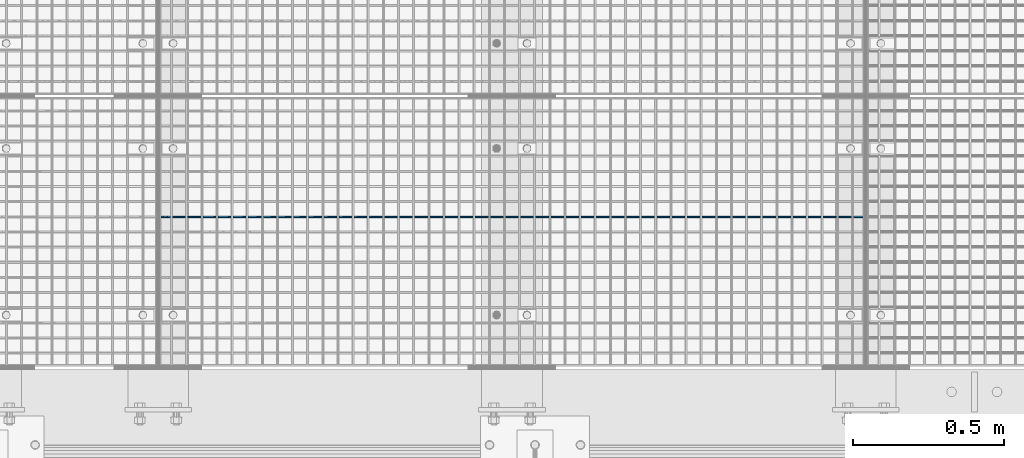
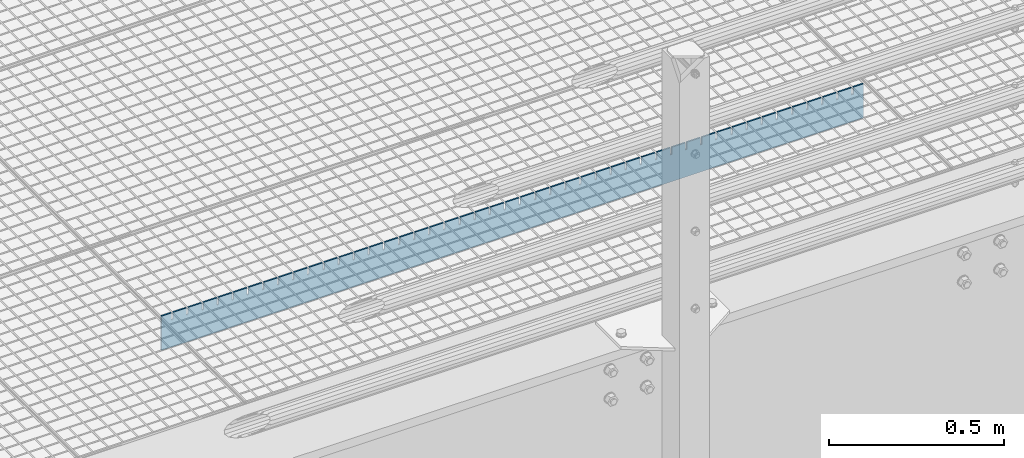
# One storey, part 161 of 1530: 1 beam.
"""IFC2X3 building model written with IfcOpenShell, lengths in millimetres."""

from ifc_helpers import new_model, si_unit, frame, origin_with_axes, place, context, subcontext, project, spatial, faceted_brep, material, type_object, element, save


model = new_model("IFC2X3")

# Units and contexts
model_context = context("Model", 3, precision=1e-05, world=origin_with_axes())
body_context = subcontext(model_context, "Body", "Model", "MODEL_VIEW")
ifc_project = project(units=[si_unit("LENGTHUNIT", "METRE", prefix="MILLI"), si_unit("AREAUNIT", "SQUARE_METRE"), si_unit("VOLUMEUNIT", "CUBIC_METRE"), si_unit("MASSUNIT", "GRAM", prefix="KILO"), si_unit("TIMEUNIT", "SECOND"), si_unit("PLANEANGLEUNIT", "RADIAN"), si_unit("SOLIDANGLEUNIT", "STERADIAN"), si_unit("THERMODYNAMICTEMPERATUREUNIT", "DEGREE_CELSIUS"), si_unit("LUMINOUSINTENSITYUNIT", "LUMEN")], contexts=[model_context])

# Site, building, storey
site_placement = place(None, origin_with_axes())
site = spatial("IfcSite", under=ifc_project, at=site_placement, Name="Brattvåg", CompositionType="ELEMENT")
building_placement = place(site_placement, origin_with_axes())
building = spatial("IfcBuilding", under=site, at=building_placement, Name="Undefined", CompositionType="ELEMENT")
storey_placement = place(building_placement, origin_with_axes())
storey = spatial("IfcBuildingStorey", under=building, at=storey_placement, Name="Undefined", CompositionType="ELEMENT", Elevation=0.0)

# Beam
ifc_material = material(Name="STEEL/S355J2")
beam_type = type_object("IfcBeamType", Name="120*5", PredefinedType="NOTDEFINED")
beam_placement = place(storey_placement, frame((5234.01317977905, 652.995635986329, -59.9998626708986), z_axis=(0.0, 0.0, 1.0), x_axis=(-1.0, 1.99999855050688e-09, 0.0)))
element("IfcBeam", 1, at=beam_placement, inside=storey, type_object=beam_type, material=ifc_material, Name="GRATING", context=body_context, shape_type="Brep", body=[
    faceted_brep([(2231.43418685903, -2.50000000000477, 60.000072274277), (2231.43418685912, -2.50000000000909, 35.0001373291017), (2231.43418685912, 2.50022888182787, 35.0001373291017), (2231.43418685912, 2.5, 60.0), (2236.43418685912, -2.50000000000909, 35.0001373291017), (2236.43418685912, 2.50022888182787, 35.0001373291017), (2236.43418685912, -2.50000000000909, 60.0001373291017), (2236.43418685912, 2.5, 60.0), (2186.48418685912, -2.50000000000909, 60.0001373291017), (2186.48418685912, 2.5, 60.0), (2186.48418685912, 2.50022888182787, 35.0001373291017), (2186.48418685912, -2.50000000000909, 35.0001373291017), (2181.48418685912, 2.50022888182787, 35.0001373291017), (2181.48418685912, -2.50000000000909, 35.0001373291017), (2181.48418685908, -2.50000000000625, 60.0000947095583), (2181.48418685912, 2.5, 60.0), (2136.53418685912, 2.5, 60.0), (2136.53418685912, -2.50000000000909, 60.0001373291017), (2136.53418685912, 2.50022888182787, 35.0001373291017), (2136.53418685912, -2.50000000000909, 35.0001373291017), (2131.53418685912, 2.50022888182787, 35.0001373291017), (2131.53418685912, -2.50000000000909, 35.0001373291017), (2131.5341868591, -2.50000000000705, 60.0001056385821), (2131.53418685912, 2.5, 60.0), (2086.58418685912, 2.5, 60.0), (2086.58418685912, -2.50000000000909, 60.0001373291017), (2086.58418685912, 2.50022888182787, 35.0001373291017), (2086.58418685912, -2.50000000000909, 35.0001373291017), (2081.58418685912, 2.50022888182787, 35.0001373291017), (2081.58418685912, -2.50000000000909, 35.0001373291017), (2081.58418685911, -2.50000000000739, 60.0001121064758), (2081.58418685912, 2.5, 60.0), (2036.63418685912, 2.5, 60.0), (2036.63418685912, -2.50000000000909, 60.0001373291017), (2036.63418685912, 2.50022888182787, 35.0001373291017), (2036.63418685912, -2.50000000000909, 35.0001373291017), (2031.63418685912, 2.50022888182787, 35.0001373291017), (2031.63418685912, -2.50000000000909, 35.0001373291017), (2031.63418685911, -2.50000000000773, 60.0001163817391), (2031.63418685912, 2.5, 60.0), (1986.68418685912, 2.5, 60.0), (1986.68418685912, -2.50000000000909, 60.0001373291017), (1986.68418685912, 2.50022888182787, 35.0001373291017), (1986.68418685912, -2.50000000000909, 35.0001373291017), (1981.68418685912, 2.50022888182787, 35.0001373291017), (1981.68418685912, -2.50000000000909, 35.0001373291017), (1981.68418685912, -2.50000000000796, 60.0001194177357), (1981.68418685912, 2.5, 60.0), (1936.73418685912, 2.5, 60.0), (1936.73418685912, -2.50000000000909, 60.0001373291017), (1936.73418685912, 2.50022888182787, 35.0001373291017), (1936.73418685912, -2.50000000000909, 35.0001373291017), (1931.73418685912, 2.50022888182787, 35.0001373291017), (1931.73418685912, -2.50000000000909, 35.0001373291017), (1931.73418685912, -2.50000000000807, 60.000121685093), (1931.73418685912, 2.5, 60.0), (1886.78418685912, 2.5, 60.0), (1886.78418685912, -2.50000000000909, 60.0001373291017), (1886.78418685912, 2.50022888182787, 35.0001373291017), (1886.78418685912, -2.50000000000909, 35.0001373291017), (1881.78418685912, 2.50022888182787, 35.0001373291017), (1881.78418685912, -2.50000000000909, 35.0001373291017), (1881.78418685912, -2.50000000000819, 60.0001234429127), (1881.78418685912, 2.5, 60.0), (1836.83418685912, 2.5, 60.0), (1836.83418685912, -2.50000000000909, 60.0001373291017), (1836.83418685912, 2.50022888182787, 35.0001373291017), (1836.83418685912, -2.50000000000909, 35.0001373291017), (1831.83418685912, 2.50022888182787, 35.0001373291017), (1831.83418685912, -2.50000000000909, 35.0001373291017), (1831.83418685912, -2.5000000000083, 60.0001248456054), (1831.83418685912, 2.5, 60.0), (1786.88418685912, 2.5, 60.0), (1786.88418685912, -2.50000000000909, 60.0001373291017), (1786.88418685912, 2.50022888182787, 35.0001373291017), (1786.88418685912, -2.50000000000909, 35.0001373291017), (1781.88418685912, 2.50022888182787, 35.0001373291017), (1781.88418685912, -2.50000000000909, 35.0001373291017), (1781.88418685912, -2.5000000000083, 60.0001259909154), (1781.88418685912, 2.5, 60.0), (1736.93418685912, 2.5, 60.0), (1736.93418685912, -2.50000000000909, 60.0001373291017), (1736.93418685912, 2.50022888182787, 35.0001373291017), (1736.93418685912, -2.50000000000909, 35.0001373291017), (1731.93418685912, 2.50022888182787, 35.0001373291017), (1731.93418685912, -2.50000000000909, 35.0001373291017), (1731.93418685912, -2.50000000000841, 60.0001269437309), (1731.93418685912, 2.5, 60.0), (1686.98418685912, 2.5, 60.0), (1686.98418685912, -2.50000000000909, 60.0001373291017), (1686.98418685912, 2.50022888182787, 35.0001373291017), (1686.98418685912, -2.50000000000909, 35.0001373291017), (1681.98418685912, 2.50022888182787, 35.0001373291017), (1681.98418685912, -2.50000000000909, 35.0001373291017), (1681.98418685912, -2.50000000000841, 60.0001277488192), (1681.98418685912, 2.5, 60.0), (1637.03418685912, 2.5, 60.0), (1637.03418685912, -2.50000000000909, 60.0001373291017), (1637.03418685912, 2.50022888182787, 35.0001373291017), (1637.03418685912, -2.50000000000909, 35.0001373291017), (1632.03418685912, 2.50022888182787, 35.0001373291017), (1632.03418685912, -2.50000000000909, 35.0001373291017), (1632.03418685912, -2.50000000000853, 60.0001284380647), (1632.03418685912, 2.5, 60.0), (1587.08418685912, 2.5, 60.0), (1587.08418685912, -2.50000000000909, 60.0001373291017), (1587.08418685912, 2.50022888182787, 35.0001373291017), (1587.08418685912, -2.50000000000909, 35.0001373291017), (1582.08418685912, 2.50022888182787, 35.0001373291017), (1582.08418685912, -2.50000000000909, 35.0001373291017), (1582.08418685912, -2.50000000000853, 60.000129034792), (1582.08418685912, 2.5, 60.0), (1537.13418685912, 2.5, 60.0), (1537.13418685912, -2.50000000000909, 60.0001373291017), (1537.13418685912, 2.50022888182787, 35.0001373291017), (1537.13418685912, -2.50000000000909, 35.0001373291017), (1532.13418685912, 2.50022888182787, 35.0001373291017), (1532.13418685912, -2.50000000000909, 35.0001373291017), (1532.13418685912, -2.50000000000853, 60.0001295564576), (1532.13418685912, 2.5, 60.0), (1487.18418685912, 2.5, 60.0), (1487.18418685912, -2.50000000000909, 60.0001373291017), (1487.18418685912, 2.50022888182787, 35.0001373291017), (1487.18418685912, -2.50000000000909, 35.0001373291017), (1482.18418685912, 2.50022888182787, 35.0001373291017), (1482.18418685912, -2.50000000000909, 35.0001373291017), (1482.18418685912, -2.50000000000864, 60.0001300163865), (1482.18418685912, 2.5, 60.0), (1437.23418685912, 2.5, 60.0), (1437.23418685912, -2.50000000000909, 60.0001373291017), (1437.23418685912, 2.50022888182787, 35.0001373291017), (1437.23418685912, -2.50000000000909, 35.0001373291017), (1432.23418685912, 2.50022888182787, 35.0001373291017), (1432.23418685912, -2.50000000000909, 35.0001373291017), (1432.23418685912, -2.50000000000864, 60.0001304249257), (1432.23418685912, 2.5, 60.0), (1387.28418685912, 2.5, 60.0), (1387.28418685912, -2.50000000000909, 60.0001373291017), (1387.28418685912, 2.50022888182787, 35.0001373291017), (1387.28418685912, -2.50000000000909, 35.0001373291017), (1382.28418685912, 2.50022888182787, 35.0001373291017), (1382.28418685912, -2.50000000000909, 35.0001373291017), (1382.28418685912, -2.50000000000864, 60.0001307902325), (1382.28418685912, 2.5, 60.0), (1337.33418685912, 2.5, 60.0), (1337.33418685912, -2.50000000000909, 60.0001373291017), (1337.33418685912, 2.50022888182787, 35.0001373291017), (1337.33418685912, -2.50000000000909, 35.0001373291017), (1332.33418685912, 2.50022888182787, 35.0001373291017), (1332.33418685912, -2.50000000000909, 35.0001373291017), (1332.33418685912, -2.50000000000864, 60.0001311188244), (1332.33418685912, 2.5, 60.0), (1287.38418685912, 2.5, 60.0), (1287.38418685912, -2.50000000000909, 60.0001373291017), (1287.38418685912, 2.50022888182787, 35.0001373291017), (1287.38418685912, -2.50000000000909, 35.0001373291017), (1282.38418685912, 2.50022888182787, 35.0001373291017), (1282.38418685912, -2.50000000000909, 35.0001373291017), (1282.38418685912, -2.50000000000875, 60.0001314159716), (1282.38418685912, 2.5, 60.0), (1237.43418685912, 2.5, 60.0), (1237.43418685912, -2.50000000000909, 60.0001373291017), (1237.43418685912, 2.50022888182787, 35.0001373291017), (1237.43418685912, -2.50000000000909, 35.0001373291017), (1232.43418685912, 2.50022888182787, 35.0001373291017), (1232.43418685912, -2.50000000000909, 35.0001373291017), (1232.43418685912, -2.50000000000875, 60.0001316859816), (1232.43418685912, 2.5, 60.0), (1187.48418685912, 2.5, 60.0), (1187.48418685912, -2.50000000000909, 60.0001373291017), (1187.48418685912, 2.50022888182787, 35.0001373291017), (1187.48418685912, -2.50000000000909, 35.0001373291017), (1182.48418685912, 2.50022888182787, 35.0001373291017), (1182.48418685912, -2.50000000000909, 35.0001373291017), (1182.48418685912, -2.50000000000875, 60.0001319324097), (1182.48418685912, 2.5, 60.0), (1137.53418685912, 2.5, 60.0), (1137.53418685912, -2.50000000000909, 60.0001373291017), (1137.53418685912, 2.50022888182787, 35.0001373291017), (1137.53418685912, -2.50000000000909, 35.0001373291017), (1132.53418685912, 2.50022888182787, 35.0001373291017), (1132.53418685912, -2.50000000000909, 35.0001373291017), (1132.53418685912, -2.50000000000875, 60.0001321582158), (1132.53418685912, 2.5, 60.0), (1087.58418685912, 2.5, 60.0), (1087.58418685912, -2.50000000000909, 60.0001373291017), (1087.58418685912, 2.50022888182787, 35.0001373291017), (1087.58418685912, -2.50000000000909, 35.0001373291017), (1082.58418685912, 2.50022888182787, 35.0001373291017), (1082.58418685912, -2.50000000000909, 35.0001373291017), (1082.58418685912, -2.50000000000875, 60.0001323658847), (1082.58418685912, 2.5, 60.0), (1037.63418685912, 2.5, 60.0), (1037.63418685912, -2.50000000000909, 60.0001373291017), (1037.63418685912, 2.50022888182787, 35.0001373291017), (1037.63418685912, -2.50000000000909, 35.0001373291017), (1032.63418685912, 2.50022888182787, 35.0001373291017), (1032.63418685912, -2.50000000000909, 35.0001373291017), (1032.63418685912, -2.50000000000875, 60.0001325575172), (1032.63418685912, 2.5, 60.0), (987.684186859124, 2.5, 60.0), (987.684186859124, -2.50000000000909, 60.0001373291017), (987.684186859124, 2.50022888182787, 35.0001373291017), (987.684186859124, -2.50000000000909, 35.0001373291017), (982.684186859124, 2.50022888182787, 35.0001373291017), (982.684186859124, -2.50000000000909, 35.0001373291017), (982.684186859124, -2.50000000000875, 60.0001327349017), (982.684186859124, 2.5, 60.0), (937.734186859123, 2.5, 60.0), (937.734186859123, -2.50000000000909, 60.0001373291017), (937.734186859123, 2.50022888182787, 35.0001373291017), (937.734186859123, -2.50000000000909, 35.0001373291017), (932.734186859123, 2.50022888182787, 35.0001373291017), (932.734186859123, -2.50000000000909, 35.0001373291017), (932.734186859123, -2.50000000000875, 60.0001328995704), (932.734186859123, 2.5, 60.0), (887.784186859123, 2.5, 60.0), (887.784186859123, -2.50000000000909, 60.0001373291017), (887.784186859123, 2.50022888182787, 35.0001373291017), (887.784186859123, -2.50000000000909, 35.0001373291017), (882.784186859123, 2.50022888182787, 35.0001373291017), (882.784186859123, -2.50000000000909, 35.0001373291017), (882.784186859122, -2.50000000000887, 60.0001330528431), (882.784186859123, 2.5, 60.0), (837.834186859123, 2.5, 60.0), (837.834186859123, -2.50000000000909, 60.0001373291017), (837.834186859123, 2.50022888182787, 35.0001373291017), (837.834186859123, -2.50000000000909, 35.0001373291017), (832.834186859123, 2.50022888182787, 35.0001373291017), (832.834186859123, -2.50000000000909, 35.0001373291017), (832.834186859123, -2.50000000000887, 60.0001331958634), (832.834186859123, 2.5, 60.0), (787.884186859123, 2.5, 60.0), (787.884186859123, -2.50000000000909, 60.0001373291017), (787.884186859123, 2.50022888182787, 35.0001373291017), (787.884186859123, -2.50000000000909, 35.0001373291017), (782.884186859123, 2.50022888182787, 35.0001373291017), (782.884186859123, -2.50000000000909, 35.0001373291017), (782.884186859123, -2.50000000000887, 60.0001333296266), (782.884186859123, 2.5, 60.0), (737.934186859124, 2.5, 60.0), (737.934186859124, -2.50000000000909, 60.0001373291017), (737.934186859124, 2.50022888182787, 35.0001373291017), (737.934186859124, -2.50000000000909, 35.0001373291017), (732.934186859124, 2.50022888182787, 35.0001373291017), (732.934186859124, -2.50000000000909, 35.0001373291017), (732.934186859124, -2.50000000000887, 60.0001334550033), (732.934186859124, 2.5, 60.0), (687.984186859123, 2.5, 60.0), (687.984186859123, -2.50000000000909, 60.0001373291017), (687.984186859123, 2.50022888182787, 35.0001373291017), (687.984186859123, -2.50000000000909, 35.0001373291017), (682.984186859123, 2.50022888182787, 35.0001373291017), (682.984186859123, -2.50000000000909, 35.0001373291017), (682.984186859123, -2.50000000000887, 60.0001335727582), (682.984186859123, 2.5, 60.0), (638.034186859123, 2.5, 60.0), (638.034186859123, -2.50000000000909, 60.0001373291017), (638.034186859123, 2.50022888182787, 35.0001373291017), (638.034186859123, -2.50000000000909, 35.0001373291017), (633.034186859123, 2.50022888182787, 35.0001373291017), (633.034186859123, -2.50000000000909, 35.0001373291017), (633.034186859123, -2.50000000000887, 60.0001336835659), (633.034186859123, 2.5, 60.0), (588.084186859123, 2.5, 60.0), (588.084186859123, -2.50000000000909, 60.0001373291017), (588.084186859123, 2.50022888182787, 35.0001373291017), (588.084186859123, -2.50000000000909, 35.0001373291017), (583.084186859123, 2.50022888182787, 35.0001373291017), (583.084186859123, -2.50000000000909, 35.0001373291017), (583.084186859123, -2.50000000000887, 60.0001337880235), (583.084186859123, 2.5, 60.0), (538.134186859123, 2.5, 60.0), (538.134186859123, -2.50000000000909, 60.0001373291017), (538.134186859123, 2.50022888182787, 35.0001373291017), (538.134186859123, -2.50000000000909, 35.0001373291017), (533.134186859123, 2.50022888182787, 35.0001373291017), (533.134186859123, -2.50000000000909, 35.0001373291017), (533.134186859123, -2.50000000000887, 60.0001338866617), (533.134186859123, 2.5, 60.0), (488.184186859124, 2.5, 60.0), (488.184186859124, -2.50000000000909, 60.0001373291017), (488.184186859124, 2.50022888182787, 35.0001373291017), (488.184186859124, -2.50000000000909, 35.0001373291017), (483.184186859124, 2.50022888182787, 35.0001373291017), (483.184186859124, -2.50000000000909, 35.0001373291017), (483.184186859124, -2.50000000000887, 60.0001339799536), (483.184186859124, 2.5, 60.0), (438.234186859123, 2.5, 60.0), (438.234186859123, -2.50000000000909, 60.0001373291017), (438.234186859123, 2.50022888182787, 35.0001373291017), (438.234186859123, -2.50000000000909, 35.0001373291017), (433.234186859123, 2.50022888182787, 35.0001373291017), (433.234186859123, -2.50000000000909, 35.0001373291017), (433.234186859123, -2.50000000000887, 60.0001340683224), (433.234186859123, 2.5, 60.0), (388.284186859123, 2.5, 60.0), (388.284186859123, -2.50000000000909, 60.0001373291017), (388.284186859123, 2.50022888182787, 35.0001373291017), (388.284186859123, -2.50000000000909, 35.0001373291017), (383.284186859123, 2.50022888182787, 35.0001373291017), (383.284186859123, -2.50000000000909, 35.0001373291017), (383.284186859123, -2.50000000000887, 60.0001341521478), (383.284186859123, 2.5, 60.0), (338.334186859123, 2.5, 60.0), (338.334186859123, -2.50000000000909, 60.0001373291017), (338.334186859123, 2.50022888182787, 35.0001373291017), (338.334186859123, -2.50000000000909, 35.0001373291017), (333.334186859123, 2.50022888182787, 35.0001373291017), (333.334186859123, -2.50000000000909, 35.0001373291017), (333.334186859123, -2.50000000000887, 60.0001342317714), (333.334186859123, 2.5, 60.0), (288.384186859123, 2.5, 60.0), (288.384186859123, -2.50000000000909, 60.0001373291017), (288.384186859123, 2.50022888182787, 35.0001373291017), (288.384186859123, -2.50000000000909, 35.0001373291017), (283.384186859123, 2.50022888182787, 35.0001373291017), (283.384186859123, -2.50000000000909, 35.0001373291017), (283.384186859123, -2.50000000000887, 60.0001343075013), (283.384186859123, 2.5, 60.0), (238.434186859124, 2.5, 60.0), (238.434186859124, -2.50000000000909, 60.0001373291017), (238.434186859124, 2.50022888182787, 35.0001373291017), (238.434186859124, -2.50000000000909, 35.0001373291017), (233.434186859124, 2.50022888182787, 35.0001373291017), (233.434186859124, -2.50000000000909, 35.0001373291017), (233.434186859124, -2.50000000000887, 60.0001343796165), (233.434186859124, 2.5, 60.0), (188.484186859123, 2.5, 60.0), (188.484186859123, -2.50000000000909, 60.0001373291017), (188.484186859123, 2.50022888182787, 35.0001373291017), (188.484186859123, -2.50000000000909, 35.0001373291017), (183.484186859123, 2.50022888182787, 35.0001373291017), (183.484186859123, -2.50000000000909, 35.0001373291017), (183.484186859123, -2.50000000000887, 60.0001344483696), (183.484186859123, 2.5, 60.0), (138.534186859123, 2.5, 60.0), (138.534186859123, -2.50000000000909, 60.0001373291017), (138.534186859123, 2.50022888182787, 35.0001373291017), (138.534186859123, -2.50000000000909, 35.0001373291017), (133.534186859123, 2.50022888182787, 35.0001373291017), (133.534186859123, -2.50000000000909, 35.0001373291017), (133.534186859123, -2.50000000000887, 60.0001345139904), (133.534186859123, 2.5, 60.0), (88.5841868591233, 2.5, 60.0), (88.5841868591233, -2.50000000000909, 60.0001373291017), (88.5841868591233, 2.50022888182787, 35.0001373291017), (88.5841868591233, -2.50000000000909, 35.0001373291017), (83.5841868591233, 2.50022888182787, 35.0001373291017), (83.5841868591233, -2.50000000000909, 35.0001373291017), (83.5841868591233, -2.50000000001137, 60.0001345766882), (83.5841868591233, 2.5, 60.0), (38.6341868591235, 2.5, 60.0), (38.6341868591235, -2.5000000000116, 60.0001373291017), (38.6341868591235, 2.49999999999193, 35.0001373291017), (38.6341868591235, -2.5000000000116, 35.0001373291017), (33.6341868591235, 2.49999999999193, 35.0001373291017), (33.6341868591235, -2.5000000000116, 35.0001373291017), (33.6341868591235, -2.5, 60.0), (33.6341868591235, 2.5, 60.0), (0.0, 2.5, 60.0), (0.0, -2.5, 60.0), (0.0, -2.5, -60.0), (0.0, 2.5, -60.0), (2319.99865722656, 2.5, -60.0), (2319.99865722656, -2.5, -60.0), (2319.99865722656, -2.5, 60.0), (2319.99865722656, 2.5, 60.0), (2286.37250839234, 2.5, 60.0), (2286.37250839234, -2.50000000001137, 60.0001373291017), (2286.37250839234, 2.49999999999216, 35.0001373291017), (2286.37250839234, -2.50000000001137, 35.0001373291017), (2281.37250839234, 2.49999999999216, 35.0001373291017), (2281.37250839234, -2.50000000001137, 35.0001373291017), (2281.37250839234, -2.5, 60.0), (2281.37250839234, 2.5, 60.0)], [[[0, 1, 2, 3]], [[4, 5, 2, 1]], [[6, 7, 5, 4]], [[8, 9, 10, 11]], [[11, 10, 12, 13]], [[14, 13, 12, 15]], [[16, 17, 14, 15]], [[17, 16, 18, 19]], [[19, 18, 20, 21]], [[22, 21, 20, 23]], [[24, 25, 22, 23]], [[25, 24, 26, 27]], [[27, 26, 28, 29]], [[30, 29, 28, 31]], [[32, 33, 30, 31]], [[33, 32, 34, 35]], [[35, 34, 36, 37]], [[38, 37, 36, 39]], [[40, 41, 38, 39]], [[41, 40, 42, 43]], [[43, 42, 44, 45]], [[46, 45, 44, 47]], [[48, 49, 46, 47]], [[49, 48, 50, 51]], [[51, 50, 52, 53]], [[54, 53, 52, 55]], [[56, 57, 54, 55]], [[57, 56, 58, 59]], [[59, 58, 60, 61]], [[62, 61, 60, 63]], [[64, 65, 62, 63]], [[65, 64, 66, 67]], [[67, 66, 68, 69]], [[70, 69, 68, 71]], [[72, 73, 70, 71]], [[73, 72, 74, 75]], [[75, 74, 76, 77]], [[78, 77, 76, 79]], [[80, 81, 78, 79]], [[81, 80, 82, 83]], [[83, 82, 84, 85]], [[86, 85, 84, 87]], [[88, 89, 86, 87]], [[89, 88, 90, 91]], [[91, 90, 92, 93]], [[94, 93, 92, 95]], [[96, 97, 94, 95]], [[97, 96, 98, 99]], [[99, 98, 100, 101]], [[102, 101, 100, 103]], [[104, 105, 102, 103]], [[105, 104, 106, 107]], [[107, 106, 108, 109]], [[110, 109, 108, 111]], [[112, 113, 110, 111]], [[113, 112, 114, 115]], [[115, 114, 116, 117]], [[118, 117, 116, 119]], [[120, 121, 118, 119]], [[121, 120, 122, 123]], [[123, 122, 124, 125]], [[126, 125, 124, 127]], [[128, 129, 126, 127]], [[129, 128, 130, 131]], [[131, 130, 132, 133]], [[134, 133, 132, 135]], [[136, 137, 134, 135]], [[137, 136, 138, 139]], [[139, 138, 140, 141]], [[142, 141, 140, 143]], [[144, 145, 142, 143]], [[145, 144, 146, 147]], [[147, 146, 148, 149]], [[150, 149, 148, 151]], [[152, 153, 150, 151]], [[153, 152, 154, 155]], [[155, 154, 156, 157]], [[158, 157, 156, 159]], [[160, 161, 158, 159]], [[161, 160, 162, 163]], [[163, 162, 164, 165]], [[166, 165, 164, 167]], [[168, 169, 166, 167]], [[169, 168, 170, 171]], [[171, 170, 172, 173]], [[174, 173, 172, 175]], [[176, 177, 174, 175]], [[177, 176, 178, 179]], [[179, 178, 180, 181]], [[182, 181, 180, 183]], [[184, 185, 182, 183]], [[185, 184, 186, 187]], [[187, 186, 188, 189]], [[190, 189, 188, 191]], [[192, 193, 190, 191]], [[193, 192, 194, 195]], [[195, 194, 196, 197]], [[198, 197, 196, 199]], [[200, 201, 198, 199]], [[201, 200, 202, 203]], [[203, 202, 204, 205]], [[206, 205, 204, 207]], [[208, 209, 206, 207]], [[209, 208, 210, 211]], [[211, 210, 212, 213]], [[214, 213, 212, 215]], [[216, 217, 214, 215]], [[217, 216, 218, 219]], [[219, 218, 220, 221]], [[222, 221, 220, 223]], [[224, 225, 222, 223]], [[225, 224, 226, 227]], [[227, 226, 228, 229]], [[230, 229, 228, 231]], [[232, 233, 230, 231]], [[233, 232, 234, 235]], [[235, 234, 236, 237]], [[238, 237, 236, 239]], [[240, 241, 238, 239]], [[241, 240, 242, 243]], [[243, 242, 244, 245]], [[246, 245, 244, 247]], [[248, 249, 246, 247]], [[249, 248, 250, 251]], [[251, 250, 252, 253]], [[254, 253, 252, 255]], [[256, 257, 254, 255]], [[257, 256, 258, 259]], [[259, 258, 260, 261]], [[262, 261, 260, 263]], [[264, 265, 262, 263]], [[265, 264, 266, 267]], [[267, 266, 268, 269]], [[270, 269, 268, 271]], [[272, 273, 270, 271]], [[273, 272, 274, 275]], [[275, 274, 276, 277]], [[278, 277, 276, 279]], [[280, 281, 278, 279]], [[281, 280, 282, 283]], [[283, 282, 284, 285]], [[286, 285, 284, 287]], [[288, 289, 286, 287]], [[289, 288, 290, 291]], [[291, 290, 292, 293]], [[294, 293, 292, 295]], [[296, 297, 294, 295]], [[297, 296, 298, 299]], [[299, 298, 300, 301]], [[302, 301, 300, 303]], [[304, 305, 302, 303]], [[305, 304, 306, 307]], [[307, 306, 308, 309]], [[310, 309, 308, 311]], [[312, 313, 310, 311]], [[313, 312, 314, 315]], [[315, 314, 316, 317]], [[318, 317, 316, 319]], [[320, 321, 318, 319]], [[321, 320, 322, 323]], [[323, 322, 324, 325]], [[326, 325, 324, 327]], [[328, 329, 326, 327]], [[329, 328, 330, 331]], [[331, 330, 332, 333]], [[334, 333, 332, 335]], [[336, 337, 334, 335]], [[337, 336, 338, 339]], [[339, 338, 340, 341]], [[342, 341, 340, 343]], [[344, 345, 342, 343]], [[345, 344, 346, 347]], [[347, 346, 348, 349]], [[350, 349, 348, 351]], [[352, 353, 350, 351]], [[353, 352, 354, 355]], [[355, 354, 356, 357]], [[358, 357, 356, 359]], [[360, 361, 358, 359]], [[362, 361, 360, 363]], [[362, 363, 364, 365]], [[366, 365, 364, 367]], [[366, 367, 368, 369]], [[369, 368, 370, 371]], [[371, 370, 372, 373]], [[374, 373, 372, 375]], [[1, 0, 8, 11, 13, 14, 17, 19, 21, 22, 25, 27, 29, 30, 33, 35, 37, 38, 41, 43, 45, 46, 49, 51, 53, 54, 57, 59, 61, 62, 65, 67, 69, 70, 73, 75, 77, 78, 81, 83, 85, 86, 89, 91, 93, 94, 97, 99, 101, 102, 105, 107, 109, 110, 113, 115, 117, 118, 121, 123, 125, 126, 129, 131, 133, 134, 137, 139, 141, 142, 145, 147, 149, 150, 153, 155, 157, 158, 161, 163, 165, 166, 169, 171, 173, 174, 177, 179, 181, 182, 185, 187, 189, 190, 193, 195, 197, 198, 201, 203, 205, 206, 209, 211, 213, 214, 217, 219, 221, 222, 225, 227, 229, 230, 233, 235, 237, 238, 241, 243, 245, 246, 249, 251, 253, 254, 257, 259, 261, 262, 265, 267, 269, 270, 273, 275, 277, 278, 281, 283, 285, 286, 289, 291, 293, 294, 297, 299, 301, 302, 305, 307, 309, 310, 313, 315, 317, 318, 321, 323, 325, 326, 329, 331, 333, 334, 337, 339, 341, 342, 345, 347, 349, 350, 353, 355, 357, 358, 361, 362, 365, 366, 369, 371, 373, 374, 6, 4]], [[9, 8, 0, 3]], [[375, 372, 370, 368, 367, 364, 363, 360, 359, 356, 354, 352, 351, 348, 346, 344, 343, 340, 338, 336, 335, 332, 330, 328, 327, 324, 322, 320, 319, 316, 314, 312, 311, 308, 306, 304, 303, 300, 298, 296, 295, 292, 290, 288, 287, 284, 282, 280, 279, 276, 274, 272, 271, 268, 266, 264, 263, 260, 258, 256, 255, 252, 250, 248, 247, 244, 242, 240, 239, 236, 234, 232, 231, 228, 226, 224, 223, 220, 218, 216, 215, 212, 210, 208, 207, 204, 202, 200, 199, 196, 194, 192, 191, 188, 186, 184, 183, 180, 178, 176, 175, 172, 170, 168, 167, 164, 162, 160, 159, 156, 154, 152, 151, 148, 146, 144, 143, 140, 138, 136, 135, 132, 130, 128, 127, 124, 122, 120, 119, 116, 114, 112, 111, 108, 106, 104, 103, 100, 98, 96, 95, 92, 90, 88, 87, 84, 82, 80, 79, 76, 74, 72, 71, 68, 66, 64, 63, 60, 58, 56, 55, 52, 50, 48, 47, 44, 42, 40, 39, 36, 34, 32, 31, 28, 26, 24, 23, 20, 18, 16, 15, 12, 10, 9, 3, 2, 5, 7]], [[374, 375, 7, 6]]]),
])

save(model, "model.ifc")
